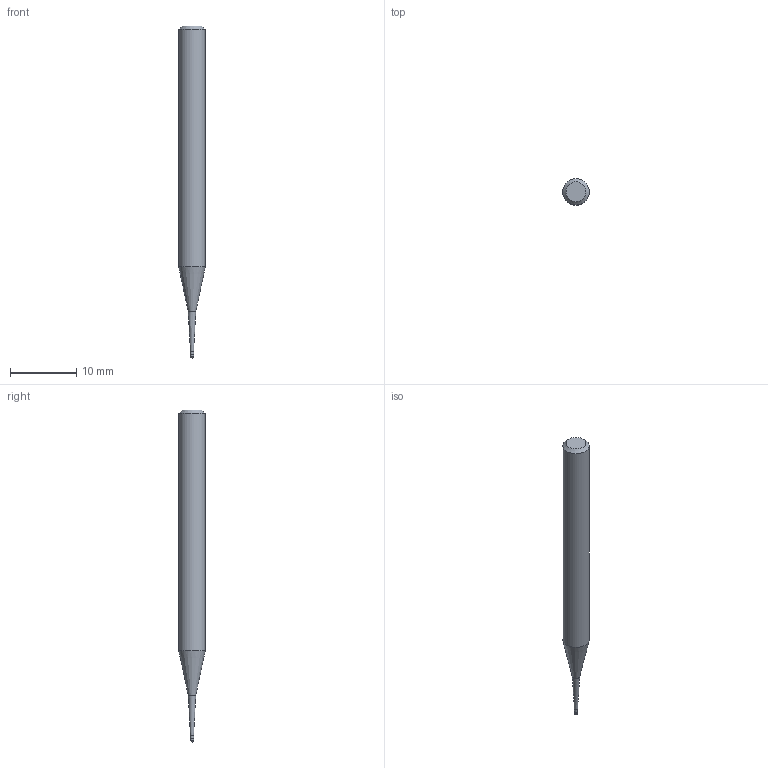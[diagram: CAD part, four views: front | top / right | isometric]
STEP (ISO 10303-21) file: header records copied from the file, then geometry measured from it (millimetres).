
FILE_DESCRIPTION((''),'2;1');
FILE_NAME('C:\Users\nsx150\AppData\Local\Temp\Mastercam 2021\SNAKH10GOD\TEMP.step','2021-10-21T13:31:20',(''),(''),'STEP Write','Mastercam 2021 ... CNC Software, Inc.','');
FILE_SCHEMA(('AUTOMOTIVE_DESIGN'));
Length unit declared in the file: millimetre
Products named in the file (1): None
Bounding box: 4 x 4 x 50 mm (x, y, z)
Volume: 496 mm3; surface area: 536.9 mm2
Topology: 2 solids, 2 shells, 10 faces, 16 edges, 9 vertices
Faces by surface type: plane 3, cylinder 3, cone 3, sphere 1
Full cylindrical faces by diameter (mm): 0.485 x1, 0.5 x1, 4 x1
Entity records: 232 total; most frequent: DIRECTION 40, CARTESIAN_POINT 28, AXIS2_PLACEMENT_3D 20, ORIENTED_EDGE 16, EDGE_LOOP 16, STYLED_ITEM 13, ADVANCED_FACE 10, FACE_BOUND 9
